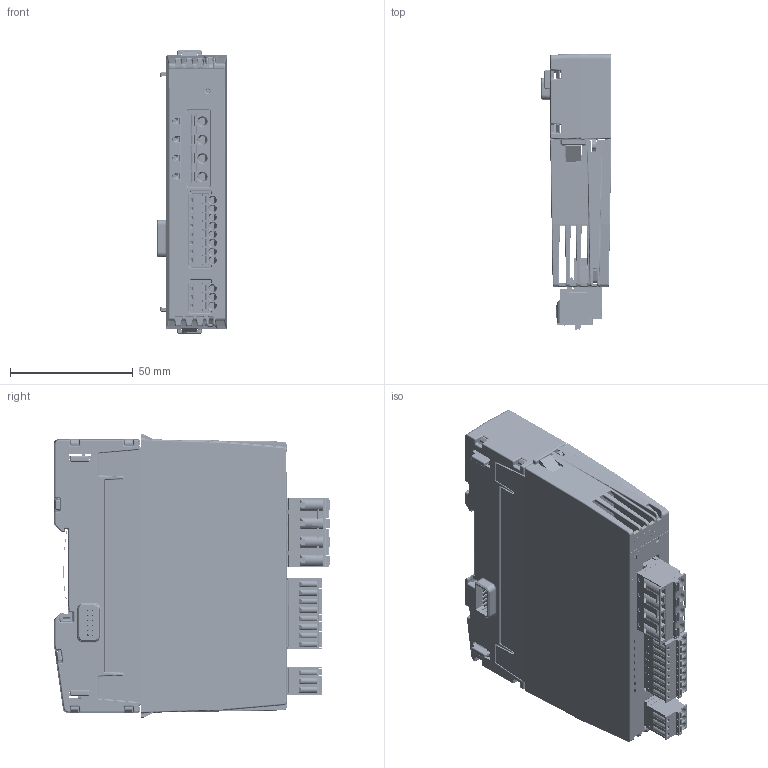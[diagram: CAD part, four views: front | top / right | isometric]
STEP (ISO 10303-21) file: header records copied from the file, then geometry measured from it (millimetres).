
FILE_DESCRIPTION(/* description */ (''),/* implementation_level */ '2;1');
FILE_NAME(/* name */ 'C:\Users\Public\Documents\Autodesk\Inventor 2023\PML4A_Simplified+BackBB21C.stp',/* time_stamp */ '2024-10-18T22:50:25+02:00',/* author */ ('shoma'),/* organization */ (''),/* preprocessor_version */ 'ST-DEVELOPER v19',/* originating_system */ 'Autodesk Inventor 2023',/* authorisation */ '');
FILE_SCHEMA (('AUTOMOTIVE_DESIGN { 1 0 10303 214 3 1 1 }'));
Products named in the file (1): PML4A_Simplified+BackBB21C
Bounding box: 28.9 x 112.6 x 115.5 mm (x, y, z)
Volume: 135859.4 mm3; surface area: 89792.9 mm2
Topology: 8 solids, 43 shells, 8413 faces, 22502 edges, 14135 vertices
Faces by surface type: plane 5460, cylinder 2072, bspline 541, sphere 163, cone 135, torus 42
Full cylindrical faces by diameter (mm): 0.296 x2, 0.3 x36, 0.434 x1, 0.457 x2, 0.7 x36, 0.8 x6, 0.85 x24, 0.9 x8, 1.17 x11, 1.25 x11, 1.3 x11, 1.4 x8, 1.5 x4, 1.6 x9, 2.35 x2, 2.5 x1, 2.8 x3, 3 x5, 3.1 x11, 3.25 x2, 4 x4
Entity records: 284950 total; most frequent: CARTESIAN_POINT 66348, ORIENTED_EDGE 44658, DIRECTION 42448, EDGE_CURVE 22329, LINE 16380, VECTOR 16380, VERTEX_POINT 14131, AXIS2_PLACEMENT_3D 13034
